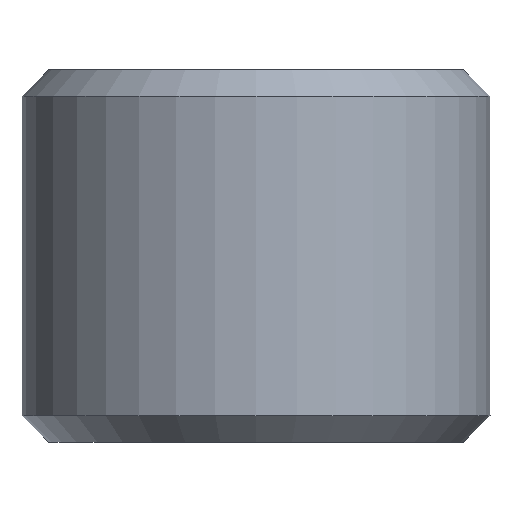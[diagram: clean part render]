
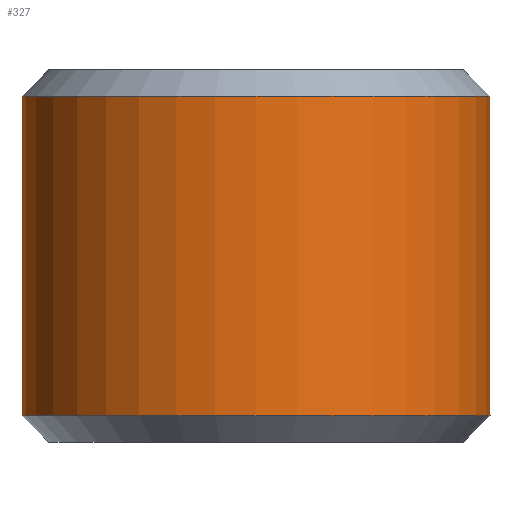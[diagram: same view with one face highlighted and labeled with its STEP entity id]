
A CAD part, front view. The second image highlights one B-rep face of the part: STEP entity #327.
In plain terms, the highlighted cylindrical face has radius 4.4 mm (diameter 8.8 mm), a partial arc.
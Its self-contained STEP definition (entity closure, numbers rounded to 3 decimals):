
#4 = VERTEX_POINT ( 'NONE', #298 ) ;
#9 = FACE_OUTER_BOUND ( 'NONE', #129, .T. ) ;
#10 = CIRCLE ( 'NONE', #302, 4.4 ) ;
#29 = DIRECTION ( 'NONE',  ( -1., 0., 0. ) ) ;
#33 = DIRECTION ( 'NONE',  ( 0., 0., -1. ) ) ;
#56 = CARTESIAN_POINT ( 'NONE',  ( 0., 0., 6.5 ) ) ;
#61 = DIRECTION ( 'NONE',  ( 0., 0., -1. ) ) ;
#71 = CIRCLE ( 'NONE', #153, 4.4 ) ;
#72 = CARTESIAN_POINT ( 'NONE',  ( 0., 0., 0.5 ) ) ;
#74 = DIRECTION ( 'NONE',  ( 0., 0., 1. ) ) ;
#75 = DIRECTION ( 'NONE',  ( 0., 0., -1. ) ) ;
#98 = VECTOR ( 'NONE', #33, 1000. ) ;
#100 = LINE ( 'NONE', #406, #98 ) ;
#105 = LINE ( 'NONE', #444, #201 ) ;
#109 = VERTEX_POINT ( 'NONE', #440 ) ;
#129 = EDGE_LOOP ( 'NONE', ( #206, #258, #383, #218 ) ) ;
#131 = DIRECTION ( 'NONE',  ( 0., 0., -1. ) ) ;
#139 = DIRECTION ( 'NONE',  ( 1., 0., 0. ) ) ;
#153 = AXIS2_PLACEMENT_3D ( 'NONE', #72, #74, #139 ) ;
#172 = CARTESIAN_POINT ( 'NONE',  ( 0., 0., 7. ) ) ;
#183 = EDGE_CURVE ( 'NONE', #4, #109, #100, .T. ) ;
#201 = VECTOR ( 'NONE', #131, 1000. ) ;
#206 = ORIENTED_EDGE ( 'NONE', *, *, #362, .F. ) ;
#207 = EDGE_CURVE ( 'NONE', #109, #397, #71, .T. ) ;
#218 = ORIENTED_EDGE ( 'NONE', *, *, #207, .T. ) ;
#235 = CARTESIAN_POINT ( 'NONE',  ( 4.4, 0., 6.5 ) ) ;
#258 = ORIENTED_EDGE ( 'NONE', *, *, #309, .T. ) ;
#279 = AXIS2_PLACEMENT_3D ( 'NONE', #172, #75, #29 ) ;
#289 = DIRECTION ( 'NONE',  ( 1., 0., 0. ) ) ;
#298 = CARTESIAN_POINT ( 'NONE',  ( -4.4, 0., 6.5 ) ) ;
#302 = AXIS2_PLACEMENT_3D ( 'NONE', #56, #61, #289 ) ;
#308 = CYLINDRICAL_SURFACE ( 'NONE', #279, 4.4 ) ;
#309 = EDGE_CURVE ( 'NONE', #388, #4, #10, .T. ) ;
#327 = ADVANCED_FACE ( 'NONE', ( #9 ), #308, .T. ) ;
#362 = EDGE_CURVE ( 'NONE', #388, #397, #105, .T. ) ;
#383 = ORIENTED_EDGE ( 'NONE', *, *, #183, .T. ) ;
#388 = VERTEX_POINT ( 'NONE', #235 ) ;
#397 = VERTEX_POINT ( 'NONE', #402 ) ;
#402 = CARTESIAN_POINT ( 'NONE',  ( 4.4, 0., 0.5 ) ) ;
#406 = CARTESIAN_POINT ( 'NONE',  ( -4.4, 0., 7. ) ) ;
#440 = CARTESIAN_POINT ( 'NONE',  ( -4.4, 0., 0.5 ) ) ;
#444 = CARTESIAN_POINT ( 'NONE',  ( 4.4, 0., 7. ) ) ;
